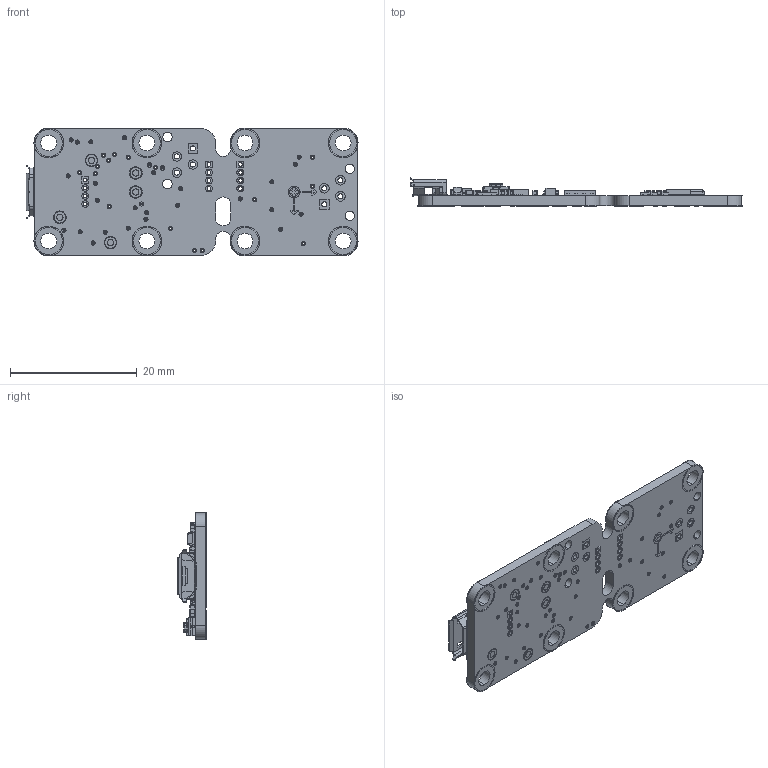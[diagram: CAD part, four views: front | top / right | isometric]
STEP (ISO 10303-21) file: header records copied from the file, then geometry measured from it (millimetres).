
FILE_DESCRIPTION (( 'STEP AP214' ), '1' );
FILE_NAME ('yocto_Yocto3D-v2.STEP', '2016-12-06T18:07:45', ( 'martinm' ), ( '' ), 'SwSTEP 2.0', 'SolidWorks 2008', '' );
FILE_SCHEMA (( 'AUTOMOTIVE_DESIGN' ));
Length unit declared in the file: millimetre
Products named in the file (30): PCB; C1; C2; C8; C11; C12; C16; C17; C19; C20; FLASH1; PVSS; R2; R3; R4; R5; R8; R10; R12; R18; REG1; SW1; Sens2; U1; USB1; Y1; YLED; reg2; sens1; yocto_Yocto3D-v2
Assembly tree (41 placements, depth 2):
  PVSS
  yocto_Yocto3D-v2
    C12  x7
    R8  x3
    R3
    R4
    U1
    C8
    C19
    R10  x3
    reg2
    C11  x2
    Y1
    USB1
    C20  x3
    C1
    R12
    C17
    FLASH1
    SW1
    PCB
    R5
    REG1
    sens1
    C2
    C16
    YLED
    R2
    R18
    Sens2
Bounding box: 52.45 x 4.46 x 20.2 mm (x, y, z)
Volume: 1656.5 mm3; surface area: 3261.1 mm2
Topology: 53 solids, 53 shells, 6000 faces, 15282 edges, 9825 vertices
Faces by surface type: plane 3725, cylinder 1451, bspline 669, sphere 148, torus 7
Entity records: 237654 total; most frequent: CARTESIAN_POINT 63722, ORIENTED_EDGE 26974, DIRECTION 24283, EDGE_CURVE 13487, LINE 9685, VECTOR 9685, VERTEX_POINT 8841, AXIS2_PLACEMENT_3D 7299
